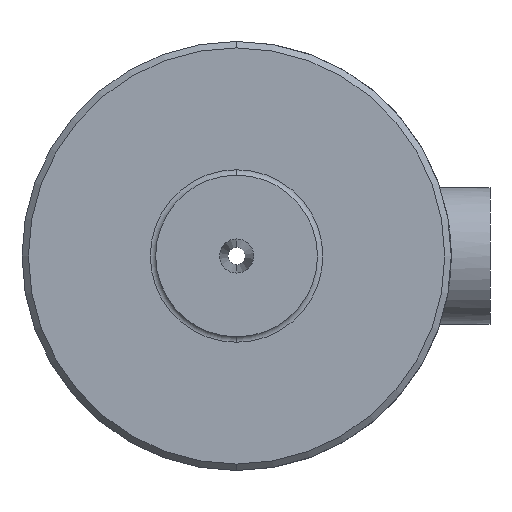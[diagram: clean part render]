
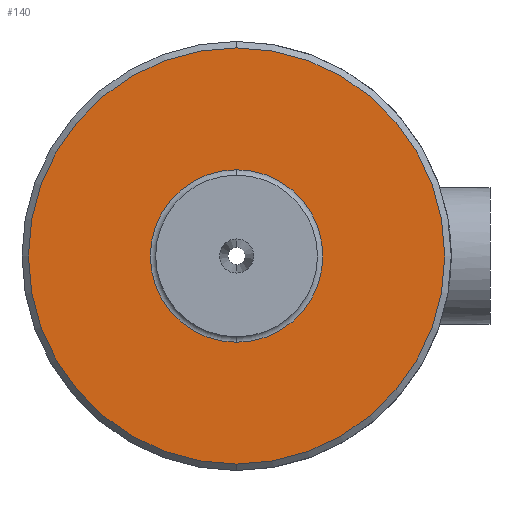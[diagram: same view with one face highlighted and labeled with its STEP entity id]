
A CAD part, front view. The second image highlights one B-rep face of the part: STEP entity #140.
In plain terms, the highlighted planar face has unit normal (0, -1, 0).
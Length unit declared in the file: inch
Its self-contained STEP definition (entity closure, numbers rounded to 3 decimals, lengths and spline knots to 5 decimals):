
#41 = VERTEX_POINT ( 'NONE', #296 ) ;
#42 = VERTEX_POINT ( 'NONE', #292 ) ;
#43 = EDGE_CURVE ( 'NONE', #42, #41, #290, .T. ) ;
#48 = EDGE_CURVE ( 'NONE', #41, #42, #279, .T. ) ;
#112 = EDGE_CURVE ( 'NONE', #1181, #1170, #420, .T. ) ;
#114 = ORIENTED_EDGE ( 'NONE', *, *, #112, .F. ) ;
#140 = ADVANCED_FACE ( 'NONE', ( #432, #431 ), #425, .T. ) ;
#142 = EDGE_LOOP ( 'NONE', ( #194, #165 ) ) ;
#165 = ORIENTED_EDGE ( 'NONE', *, *, #43, .T. ) ;
#166 = ORIENTED_EDGE ( 'NONE', *, *, #1178, .F. ) ;
#167 = EDGE_LOOP ( 'NONE', ( #166, #114 ) ) ;
#194 = ORIENTED_EDGE ( 'NONE', *, *, #48, .T. ) ;
#275 = DIRECTION ( 'NONE',  ( 0., 0., 1. ) ) ;
#276 = DIRECTION ( 'NONE',  ( 0., 1., 0. ) ) ;
#277 = CARTESIAN_POINT ( 'NONE',  ( 0., -1., 0. ) ) ;
#278 = AXIS2_PLACEMENT_3D ( 'NONE', #277, #276, #275 ) ;
#279 = CIRCLE ( 'NONE', #278, 0.4 ) ;
#286 = DIRECTION ( 'NONE',  ( 0., 0., 1. ) ) ;
#287 = DIRECTION ( 'NONE',  ( 0., 1., 0. ) ) ;
#288 = CARTESIAN_POINT ( 'NONE',  ( 0., -1., 0. ) ) ;
#289 = AXIS2_PLACEMENT_3D ( 'NONE', #288, #287, #286 ) ;
#290 = CIRCLE ( 'NONE', #289, 0.4 ) ;
#292 = CARTESIAN_POINT ( 'NONE',  ( 0., -1., -0.4 ) ) ;
#296 = CARTESIAN_POINT ( 'NONE',  ( 0., -1., 0.4 ) ) ;
#416 = DIRECTION ( 'NONE',  ( 0., 0., 1. ) ) ;
#417 = DIRECTION ( 'NONE',  ( 0., 1., 0. ) ) ;
#418 = CARTESIAN_POINT ( 'NONE',  ( 0., -1., 0. ) ) ;
#419 = AXIS2_PLACEMENT_3D ( 'NONE', #418, #417, #416 ) ;
#420 = CIRCLE ( 'NONE', #419, 0.965 ) ;
#424 = AXIS2_PLACEMENT_3D ( 'NONE', #486, #485, #484 ) ;
#425 = PLANE ( 'NONE',  #424 ) ;
#431 = FACE_OUTER_BOUND ( 'NONE', #167, .T. ) ;
#432 = FACE_BOUND ( 'NONE', #142, .T. ) ;
#484 = DIRECTION ( 'NONE',  ( 0., 0., -1. ) ) ;
#485 = DIRECTION ( 'NONE',  ( 0., -1., 0. ) ) ;
#486 = CARTESIAN_POINT ( 'NONE',  ( 0.965, -1., 0. ) ) ;
#718 = CARTESIAN_POINT ( 'NONE',  ( 0., -1., 0.965 ) ) ;
#759 = CARTESIAN_POINT ( 'NONE',  ( 0., -1., -0.965 ) ) ;
#764 = DIRECTION ( 'NONE',  ( 0., 0., 1. ) ) ;
#765 = DIRECTION ( 'NONE',  ( 0., 1., 0. ) ) ;
#766 = CARTESIAN_POINT ( 'NONE',  ( 0., -1., 0. ) ) ;
#767 = AXIS2_PLACEMENT_3D ( 'NONE', #766, #765, #764 ) ;
#768 = CIRCLE ( 'NONE', #767, 0.965 ) ;
#1170 = VERTEX_POINT ( 'NONE', #718 ) ;
#1178 = EDGE_CURVE ( 'NONE', #1170, #1181, #768, .T. ) ;
#1181 = VERTEX_POINT ( 'NONE', #759 ) ;
